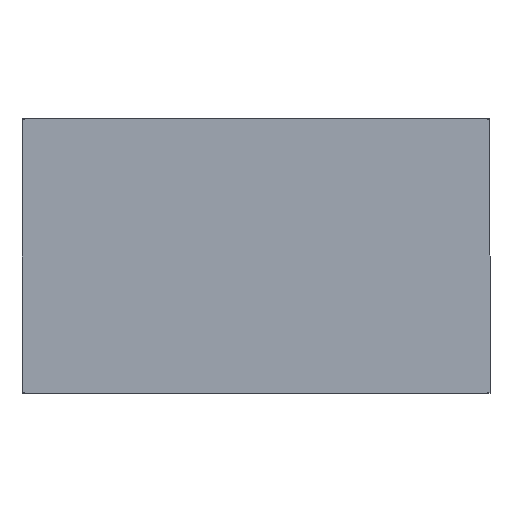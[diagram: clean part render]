
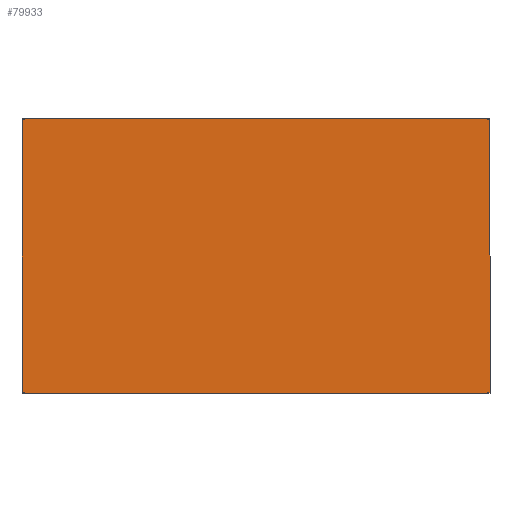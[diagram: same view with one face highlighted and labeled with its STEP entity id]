
A CAD part, top view. The second image highlights one B-rep face of the part: STEP entity #79933.
In plain terms, the highlighted planar face has unit normal (0, 0, 1) as drawn and (0, 0, -1) by its records, which use the part's own axes.
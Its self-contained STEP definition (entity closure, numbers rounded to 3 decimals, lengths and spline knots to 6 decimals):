
#453=LINE('',#115690,#10191);
#455=LINE('',#115694,#10193);
#457=LINE('',#115698,#10195);
#458=LINE('',#115700,#10196);
#10191=VECTOR('',#92858,1.);
#10193=VECTOR('',#92862,1.);
#10195=VECTOR('',#92866,1.);
#10196=VECTOR('',#92869,1.);
#20476=PLANE('',#86298);
#23509=ORIENTED_EDGE('',*,*,#47678,.F.);
#23510=ORIENTED_EDGE('',*,*,#47679,.T.);
#23511=ORIENTED_EDGE('',*,*,#47676,.T.);
#23512=ORIENTED_EDGE('',*,*,#47674,.F.);
#47674=EDGE_CURVE('',#59762,#59761,#453,.T.);
#47676=EDGE_CURVE('',#59763,#59761,#455,.T.);
#47678=EDGE_CURVE('',#59764,#59762,#457,.T.);
#47679=EDGE_CURVE('',#59764,#59763,#458,.T.);
#59761=VERTEX_POINT('',#115687);
#59762=VERTEX_POINT('',#115689);
#59763=VERTEX_POINT('',#115693);
#59764=VERTEX_POINT('',#115697);
#69953=EDGE_LOOP('',(#23509,#23510,#23511,#23512));
#74381=FACE_BOUND('',#69953,.T.);
#79933=ADVANCED_FACE('',(#74381),#20476,.T.);
#86298=AXIS2_PLACEMENT_3D('',#115699,#92867,#92868);
#92858=DIRECTION('',(0.,1.,0.));
#92862=DIRECTION('',(1.,0.,0.));
#92866=DIRECTION('',(1.,0.,0.));
#92867=DIRECTION('',(0.,0.,-1.));
#92868=DIRECTION('',(0.,1.,0.));
#92869=DIRECTION('',(0.,1.,0.));
#115687=CARTESIAN_POINT('',(0.028563,0.016782,-0.03475));
#115689=CARTESIAN_POINT('',(0.028563,-0.016782,-0.03475));
#115690=CARTESIAN_POINT('',(0.028563,-0.008391,-0.03475));
#115693=CARTESIAN_POINT('',(-0.028563,0.016782,-0.03475));
#115694=CARTESIAN_POINT('',(-0.028565,0.016782,-0.03475));
#115697=CARTESIAN_POINT('',(-0.028563,-0.016782,-0.03475));
#115698=CARTESIAN_POINT('',(-0.028565,-0.016782,-0.03475));
#115699=CARTESIAN_POINT('',(-0.028565,-0.008391,-0.03475));
#115700=CARTESIAN_POINT('',(-0.028563,-0.008391,-0.03475));
